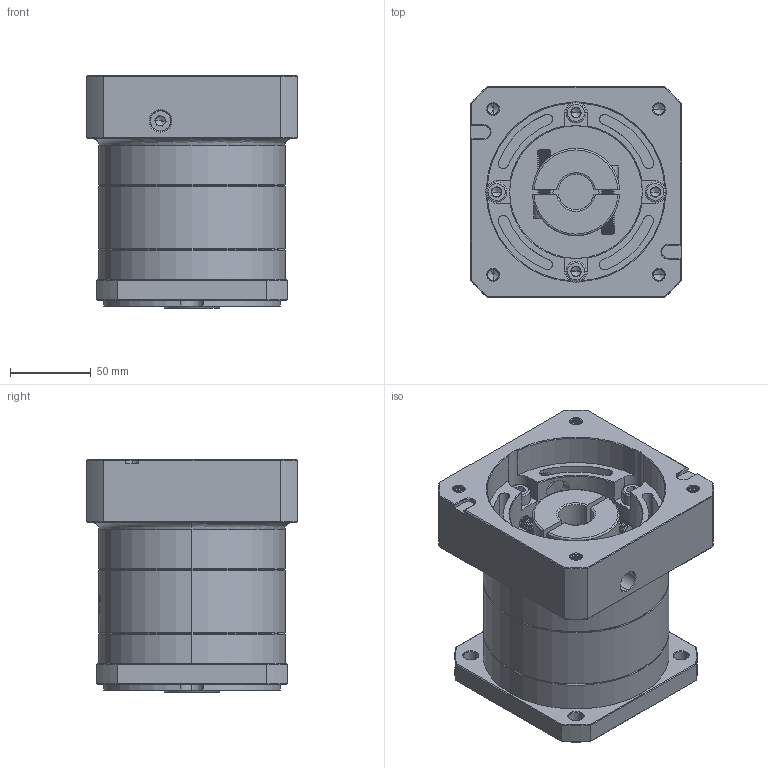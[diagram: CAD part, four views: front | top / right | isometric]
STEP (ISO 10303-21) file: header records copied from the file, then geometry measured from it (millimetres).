
FILE_DESCRIPTION (( 'STEP AP214' ), '1' );
FILE_NAME ('ZF120A-K25-L1-P2-22-110-145-M8.step', '2023-08-27T04:49:34', ( '' ), ( '' ), 'SwSTEP 2.0', 'SolidWorks 2016', '' );
FILE_SCHEMA (( 'AUTOMOTIVE_DESIGN' ));
Length unit declared in the file: millimetre
Products named in the file (1): ZF120A-K25-L1-P2-22-110-145-M8
Bounding box: 130 x 130 x 144 mm (x, y, z)
Volume: 1408484.1 mm3; surface area: 180837.2 mm2
Topology: 6 solids, 6 shells, 2220 faces, 5934 edges, 3813 vertices
Faces by surface type: plane 1053, cylinder 416, bspline 412, cone 321, torus 18
Entity records: 120875 total; most frequent: CARTESIAN_POINT 46273, ORIENTED_EDGE 11812, DIRECTION 8624, EDGE_CURVE 5906, VERTEX_POINT 3813, VECTOR 3120, LINE 3120, AXIS2_PLACEMENT_3D 2752
